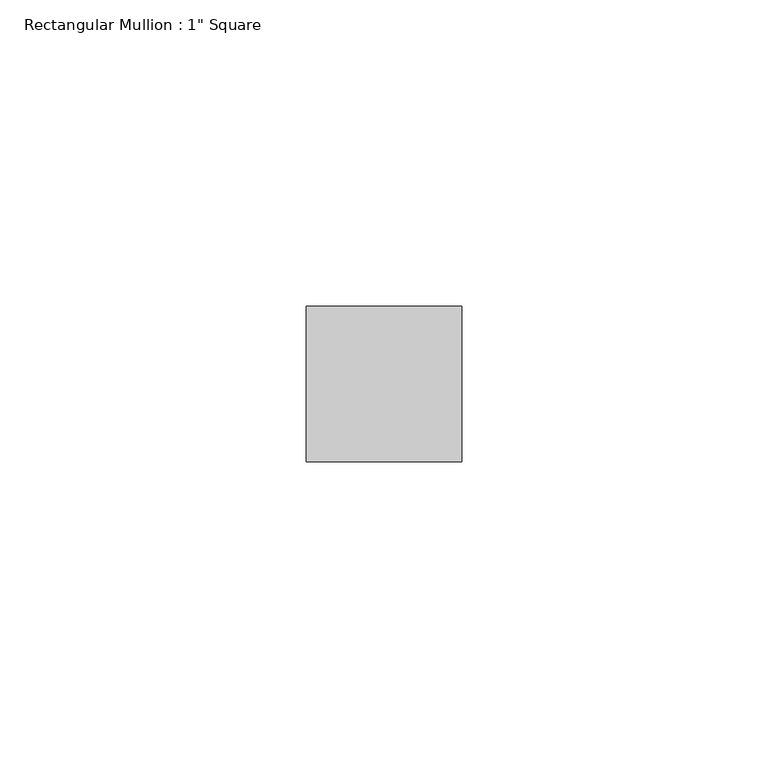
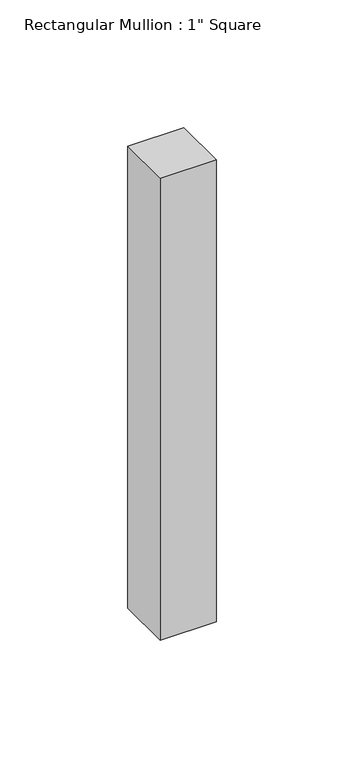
"""IFC4 building model written with IfcOpenShell, lengths in millimetres: member geometry."""

from ifc_helpers import new_model, si_unit, frame, origin, place, context, project, spatial, polyline, outline, extrude, source, transform, mapped, element, save


def member_9d0ecc57(model_context):
    return source(origin(), model_context, "Body", "SweptSolid", [
        extrude(outline(polyline([(0.0, 12.7), (0.0, -12.7), (-25.4, -12.7), (-25.4, 12.7), (0.0, 12.7)])), frame((0.0, 0.0, -220.9915539), z_axis=(0.0, 0.0, 1.0), x_axis=(1.0, 0.0, 0.0)), (0.0, 0.0, 1.0), 220.9915539),
    ])


if __name__ == "__main__":
    model = new_model("IFC4")
    model_context = context("Model", 3, world=origin())
    ifc_project = project(units=[si_unit("LENGTHUNIT", "METRE", prefix="MILLI")], contexts=[model_context])
    site = spatial("IfcSite", under=ifc_project)
    building = spatial("IfcBuilding", under=site)
    placement = place(None, origin())
    member_shape = member_9d0ecc57(model_context)
    element("IfcMember", 1, ObjectType="Rectangular Mullion : 1\" Square", at=placement, inside=building, context=model_context, shape_type="MappedRepresentation", body=[
        mapped(member_shape, transform((0.0, 0.0, 0.0), x_axis=(1.0, 0.0, 0.0), y_axis=(0.0, 1.0, 0.0), z_axis=(0.0, 0.0, 1.0))),
    ])
    save(model, "model.ifc")
